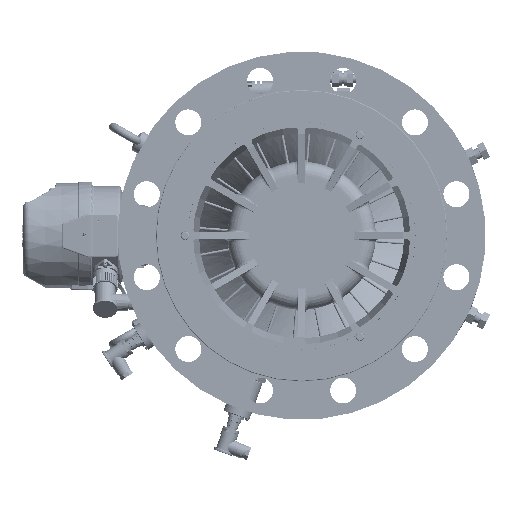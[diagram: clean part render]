
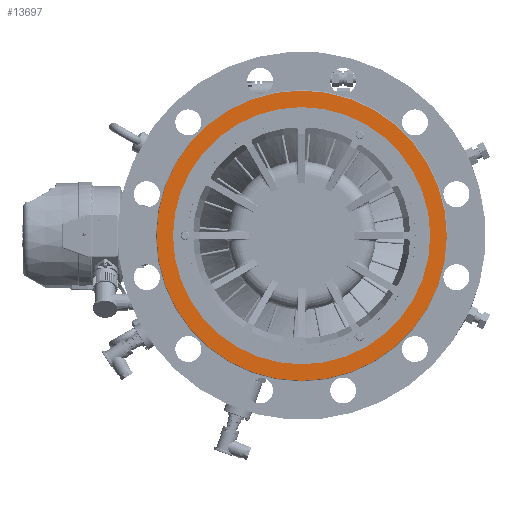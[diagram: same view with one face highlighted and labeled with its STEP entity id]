
A CAD part, left-side view. The second image highlights one B-rep face of the part: STEP entity #13697.
In plain terms, the highlighted planar face has unit normal (-1, 0, 0).
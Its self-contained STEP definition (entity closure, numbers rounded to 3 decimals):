
#12934=CARTESIAN_POINT('',(-15.5,0.,0.));
#12935=DIRECTION('',(1.,0.,0.));
#12936=DIRECTION('',(0.,1.,0.));
#12937=AXIS2_PLACEMENT_3D('',#12934,#12935,#12936);
#12939=CARTESIAN_POINT('',(-15.5,0.,0.));
#12940=DIRECTION('',(-1.,0.,0.));
#12941=DIRECTION('',(0.,1.,0.));
#12942=AXIS2_PLACEMENT_3D('',#12939,#12940,#12941);
#12944=CARTESIAN_POINT('',(-15.5,0.,0.));
#12945=DIRECTION('',(1.,0.,0.));
#12946=DIRECTION('',(0.,1.,0.));
#12947=AXIS2_PLACEMENT_3D('',#12944,#12945,#12946);
#12954=CARTESIAN_POINT('',(-15.5,0.,0.));
#12955=DIRECTION('',(1.,0.,0.));
#12956=DIRECTION('',(0.,-1.,0.));
#12957=AXIS2_PLACEMENT_3D('',#12954,#12955,#12956);
#13139=CARTESIAN_POINT('',(-15.5,167.5,0.));
#13141=VERTEX_POINT('',#13139);
#13143=CARTESIAN_POINT('',(-15.5,-167.5,0.));
#13145=VERTEX_POINT('',#13143);
#13146=CARTESIAN_POINT('',(-15.5,148.47,0.));
#13147=CARTESIAN_POINT('',(-15.5,-148.47,0.));
#13148=VERTEX_POINT('',#13146);
#13149=VERTEX_POINT('',#13147);
#13682=CARTESIAN_POINT('',(-15.5,0.,0.));
#13683=DIRECTION('',(-1.,0.,0.));
#13684=DIRECTION('',(0.,-1.,0.));
#13685=AXIS2_PLACEMENT_3D('',#13682,#13683,#13684);
#13686=PLANE('1107296346',#13685);
#13687=ORIENTED_EDGE('1107296404',*,*,#13677,.T.);
#13688=ORIENTED_EDGE('1107296380',*,*,#13661,.F.);
#13689=EDGE_LOOP('1107296346',(#13687,#13688));
#13690=FACE_OUTER_BOUND('1107296346',#13689,.F.);
#13692=ORIENTED_EDGE('1107296407',*,*,#13691,.F.);
#13694=ORIENTED_EDGE('1107296408',*,*,#13693,.F.);
#13695=EDGE_LOOP('1107296346',(#13692,#13694));
#13696=FACE_BOUND('1107296346',#13695,.F.);
#12938=CIRCLE('1107296404',#12937,167.5);
#12943=CIRCLE('1107296380',#12942,167.5);
#12948=CIRCLE('1107296407',#12947,148.47);
#12958=CIRCLE('1107296408',#12957,148.47);
#13661=EDGE_CURVE('1107296380',#13141,#13145,#12943,.T.);
#13677=EDGE_CURVE('1107296404',#13141,#13145,#12938,.T.);
#13691=EDGE_CURVE('1107296407',#13148,#13149,#12948,.T.);
#13693=EDGE_CURVE('1107296408',#13149,#13148,#12958,.T.);
#13697=ADVANCED_FACE('1107296346',(#13690,#13696),#13686,.T.);
